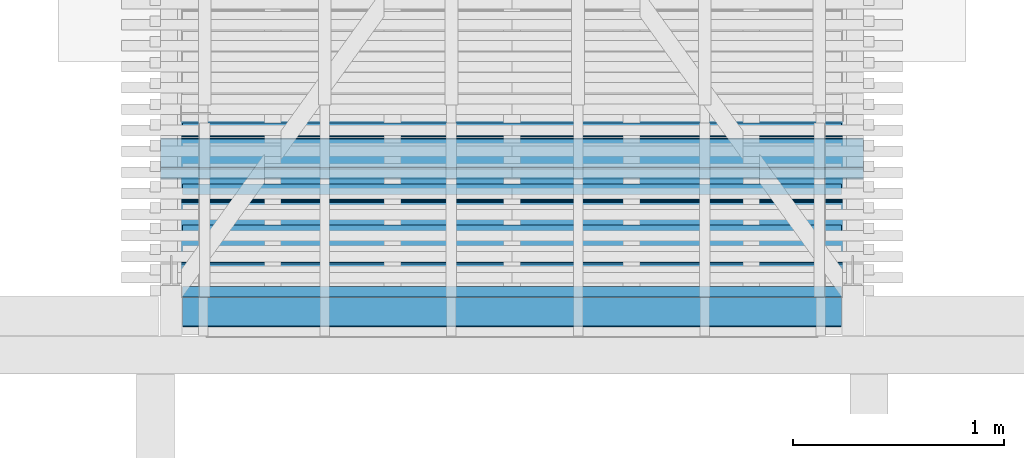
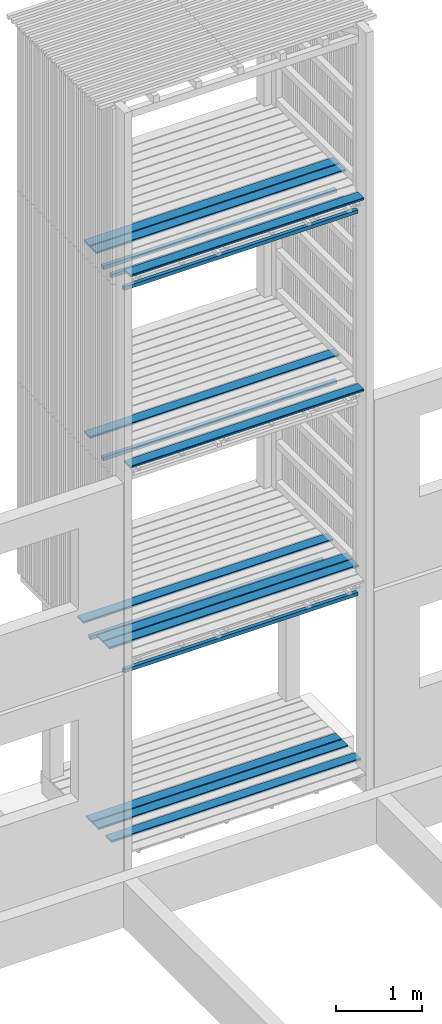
# One storey, part 35 of 182: 17 beams.
"""IFC2X3 building model written with IfcOpenShell, lengths in metres."""

from ifc_helpers import new_model, si_unit, frame, origin, place, context, project, spatial, faceted_brep, element, save


model = new_model("IFC2X3")

# Units and contexts
model_context = context("Model", 3, precision=1e-06, world=origin())
ifc_project = project(units=[si_unit("LENGTHUNIT", "METRE"), si_unit("PLANEANGLEUNIT", "RADIAN")], contexts=[model_context])

# Site, building, storey
site = spatial("IfcSite", under=ifc_project, CompositionType="ELEMENT")
building = spatial("IfcBuilding", under=site, CompositionType="ELEMENT")
storey = spatial("IfcBuildingStorey", under=building, Name="vs", CompositionType="ELEMENT", Elevation=-0.85)

# Beams
placement = place(None, origin())
beam_1_placement = place(placement, frame((16.654197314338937, 10.884577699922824, 2.733499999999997), z_axis=(0.0, 0.0, 1.0), x_axis=(-1.0, -2e-15, 0.0)))
element("IfcBeam", 1, at=beam_1_placement, inside=storey, Name="Caillebotis", context=model_context, shape_type="Brep", body=[
    faceted_brep([(3.329999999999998, -0.072500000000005, -0.0135), (3.329999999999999, 0.072499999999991, -0.0135), (3.329999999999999, 0.072499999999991, 0.0085), (3.329999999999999, 0.067499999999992, 0.0135), (3.329999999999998, -0.067500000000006, 0.0135), (3.329999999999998, -0.072500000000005, 0.008500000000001), (0.0, -0.072500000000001, 0.008500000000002), (0.0, -0.067499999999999, 0.0135), (0.0, 0.067499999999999, 0.0135), (0.0, 0.072500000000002, 0.0085), (0.0, 0.072500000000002, -0.0135), (0.0, -0.072500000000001, -0.0135), (3.329999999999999, 0.072499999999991, 0.0085), (3.329999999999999, 0.072499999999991, -0.0135), (0.0, 0.072500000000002, -0.0135), (0.0, 0.072500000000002, 0.0085), (3.329999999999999, 0.067499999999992, 0.0135), (3.329999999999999, 0.072499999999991, 0.0085), (0.0, 0.072500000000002, 0.0085), (0.0, 0.067499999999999, 0.0135), (3.329999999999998, -0.067500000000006, 0.0135), (3.329999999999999, 0.067499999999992, 0.0135), (0.0, 0.067499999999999, 0.0135), (0.0, -0.067499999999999, 0.0135), (3.329999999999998, -0.072500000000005, 0.008500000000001), (3.329999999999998, -0.067500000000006, 0.0135), (0.0, -0.067499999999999, 0.0135), (0.0, -0.072500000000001, 0.008500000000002), (3.329999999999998, -0.072500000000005, -0.0135), (3.329999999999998, -0.072500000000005, 0.008500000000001), (0.0, -0.072500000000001, 0.008500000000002), (0.0, -0.072500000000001, -0.0135), (0.0, 0.072500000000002, -0.0135), (3.329999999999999, 0.072499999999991, -0.0135), (3.329999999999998, -0.072500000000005, -0.0135), (0.0, -0.072500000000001, -0.0135)], [[[0, 1, 2, 3, 4, 5]], [[6, 7, 8, 9, 10, 11]], [[12, 13, 14, 15]], [[16, 17, 18, 19]], [[20, 21, 22, 23]], [[24, 25, 26, 27]], [[28, 29, 30, 31]], [[32, 33, 34, 35]]]),
])
beam_2_placement = place(placement, frame((16.654197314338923, 11.284577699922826, 0.033500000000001), z_axis=(0.0, 0.0, 1.0), x_axis=(-1.0, -1e-15, 0.0)))
element("IfcBeam", 2, at=beam_2_placement, inside=storey, Name="Caillebotis", context=model_context, shape_type="Brep", body=[
    faceted_brep([(3.329999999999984, -0.067499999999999, 0.0135), (3.329999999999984, -0.072500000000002, 0.008500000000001), (3.329999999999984, -0.072500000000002, -0.013500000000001), (3.329999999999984, 0.072500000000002, -0.013500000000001), (3.329999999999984, 0.072500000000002, 0.0085), (3.329999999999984, 0.067499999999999, 0.0135), (0.0, 0.067500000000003, 0.0135), (0.0, 0.072500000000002, 0.0085), (0.0, 0.072500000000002, -0.013500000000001), (0.0, -0.072499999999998, -0.013500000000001), (0.0, -0.072499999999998, 0.008500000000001), (0.0, -0.067499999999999, 0.0135), (3.329999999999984, -0.072500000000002, -0.013500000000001), (3.329999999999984, -0.072500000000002, 0.008500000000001), (0.0, -0.072499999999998, 0.008500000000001), (0.0, -0.072499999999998, -0.013500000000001), (3.329999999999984, 0.072500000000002, -0.013500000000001), (3.329999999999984, -0.072500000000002, -0.013500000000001), (0.0, -0.072499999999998, -0.013500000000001), (0.0, 0.072500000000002, -0.013500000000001), (3.329999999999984, 0.072500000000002, 0.0085), (3.329999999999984, 0.072500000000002, -0.013500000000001), (0.0, 0.072500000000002, -0.013500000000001), (0.0, 0.072500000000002, 0.0085), (3.329999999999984, 0.067499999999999, 0.0135), (3.329999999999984, 0.072500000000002, 0.0085), (0.0, 0.072500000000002, 0.0085), (0.0, 0.067500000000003, 0.0135), (3.329999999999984, -0.067499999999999, 0.0135), (3.329999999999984, 0.067499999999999, 0.0135), (0.0, 0.067500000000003, 0.0135), (0.0, -0.067499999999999, 0.0135), (0.0, -0.072499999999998, 0.008500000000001), (3.329999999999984, -0.072500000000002, 0.008500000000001), (3.329999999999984, -0.067499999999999, 0.0135), (0.0, -0.067499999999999, 0.0135)], [[[0, 1, 2, 3, 4, 5]], [[6, 7, 8, 9, 10, 11]], [[12, 13, 14, 15]], [[16, 17, 18, 19]], [[20, 21, 22, 23]], [[24, 25, 26, 27]], [[28, 29, 30, 31]], [[32, 33, 34, 35]]]),
])
beam_3_placement = place(placement, frame((16.549197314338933, 10.970702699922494, 7.867999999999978), z_axis=(0.0, 0.0, 1.0), x_axis=(-1.0, 0.0, 0.0)))
element("IfcBeam", 3, at=beam_3_placement, inside=storey, Name="Bardage", context=model_context, shape_type="Brep", body=[
    faceted_brep([(3.120000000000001, 0.024999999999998, -0.025000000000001), (3.120000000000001, -0.025000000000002, -0.025000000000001), (-3e-15, -0.025000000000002, -0.025000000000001), (-3e-15, 0.024999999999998, -0.025000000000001), (-3e-15, -0.025000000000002, -0.025000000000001), (3.120000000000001, -0.025000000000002, -0.025000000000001), (3.120000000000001, -0.025000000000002, 0.024999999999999), (-3e-15, -0.025000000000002, 0.024999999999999), (3.120000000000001, -0.025000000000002, -0.025000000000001), (3.120000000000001, 0.024999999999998, -0.025000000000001), (3.120000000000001, 0.024999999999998, 0.024999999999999), (3.120000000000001, -0.025000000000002, 0.024999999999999), (3.120000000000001, 0.024999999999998, 0.024999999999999), (3.120000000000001, 0.024999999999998, -0.025000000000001), (-3e-15, 0.024999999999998, -0.025000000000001), (-3e-15, 0.024999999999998, 0.024999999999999), (-3e-15, -0.025000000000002, 0.024999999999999), (3.120000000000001, -0.025000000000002, 0.024999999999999), (3.120000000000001, 0.024999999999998, 0.024999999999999), (-3e-15, 0.024999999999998, 0.024999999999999), (-3e-15, -0.025000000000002, -0.025000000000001), (-3e-15, -0.025000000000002, 0.024999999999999), (-3e-15, 0.024999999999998, 0.024999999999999), (-3e-15, 0.024999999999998, -0.025000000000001)], [[[0, 1, 2, 3]], [[4, 5, 6, 7]], [[8, 9, 10, 11]], [[12, 13, 14, 15]], [[16, 17, 18, 19]], [[20, 21, 22, 23]]]),
])
beam_4_placement = place(placement, frame((16.654197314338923, 11.484577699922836, 2.733499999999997), z_axis=(0.0, 0.0, 1.0), x_axis=(-1.0, -8e-15, 0.0)))
element("IfcBeam", 4, at=beam_4_placement, inside=storey, Name="Caillebotis", context=model_context, shape_type="Brep", body=[
    faceted_brep([(3.329999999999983, -0.072500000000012, -0.0135), (3.329999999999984, 0.072499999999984, -0.0135), (3.329999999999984, 0.072499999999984, 0.0085), (3.329999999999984, 0.067499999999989, 0.0135), (3.329999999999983, -0.067500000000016, 0.0135), (3.329999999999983, -0.072500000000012, 0.008500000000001), (-1.5e-14, -0.072499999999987, 0.008500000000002), (-1.5e-14, -0.067499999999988, 0.0135), (-1.4e-14, 0.067500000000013, 0.0135), (-1.4e-14, 0.072500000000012, 0.0085), (-1.4e-14, 0.072500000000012, -0.0135), (-1.5e-14, -0.072499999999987, -0.0135), (3.329999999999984, 0.072499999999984, 0.0085), (3.329999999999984, 0.072499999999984, -0.0135), (-1.4e-14, 0.072500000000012, -0.0135), (-1.4e-14, 0.072500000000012, 0.0085), (3.329999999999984, 0.067499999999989, 0.0135), (3.329999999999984, 0.072499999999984, 0.0085), (-1.4e-14, 0.072500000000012, 0.0085), (-1.4e-14, 0.067500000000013, 0.0135), (3.329999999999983, -0.067500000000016, 0.0135), (3.329999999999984, 0.067499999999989, 0.0135), (-1.4e-14, 0.067500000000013, 0.0135), (-1.5e-14, -0.067499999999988, 0.0135), (3.329999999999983, -0.072500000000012, 0.008500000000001), (3.329999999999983, -0.067500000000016, 0.0135), (-1.5e-14, -0.067499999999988, 0.0135), (-1.5e-14, -0.072499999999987, 0.008500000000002), (3.329999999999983, -0.072500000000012, -0.0135), (3.329999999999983, -0.072500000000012, 0.008500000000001), (-1.5e-14, -0.072499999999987, 0.008500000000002), (-1.5e-14, -0.072499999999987, -0.0135), (-1.4e-14, 0.072500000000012, -0.0135), (3.329999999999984, 0.072499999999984, -0.0135), (3.329999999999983, -0.072500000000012, -0.0135), (-1.5e-14, -0.072499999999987, -0.0135)], [[[0, 1, 2, 3, 4, 5]], [[6, 7, 8, 9, 10, 11]], [[12, 13, 14, 15]], [[16, 17, 18, 19]], [[20, 21, 22, 23]], [[24, 25, 26, 27]], [[28, 29, 30, 31]], [[32, 33, 34, 35]]]),
])
beam_5_placement = place(placement, frame((16.654197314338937, 11.334577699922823, 8.13349999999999), z_axis=(0.0, 0.0, 1.0), x_axis=(-1.0, 0.0, 0.0)))
element("IfcBeam", 5, at=beam_5_placement, inside=storey, Name="Caillebotis", context=model_context, shape_type="Brep", body=[
    faceted_brep([(3.329999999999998, -0.072499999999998, -0.013500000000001), (3.329999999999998, 0.072500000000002, -0.013500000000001), (3.329999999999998, 0.072500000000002, 0.008499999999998), (3.329999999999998, 0.067500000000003, 0.013499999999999), (3.329999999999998, -0.067500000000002, 0.013499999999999), (3.329999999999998, -0.072499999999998, 0.0085), (0.0, -0.072499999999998, 0.0085), (0.0, -0.067500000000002, 0.013499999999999), (0.0, 0.067500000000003, 0.013499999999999), (0.0, 0.072499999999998, 0.008499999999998), (0.0, 0.072499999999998, -0.013500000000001), (0.0, -0.072499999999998, -0.013500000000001), (3.329999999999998, 0.072500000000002, 0.008499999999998), (3.329999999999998, 0.072500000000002, -0.013500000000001), (0.0, 0.072499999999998, -0.013500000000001), (0.0, 0.072499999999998, 0.008499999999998), (3.329999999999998, 0.067500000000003, 0.013499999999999), (3.329999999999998, 0.072500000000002, 0.008499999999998), (0.0, 0.072499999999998, 0.008499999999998), (0.0, 0.067500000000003, 0.013499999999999), (3.329999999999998, -0.067500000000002, 0.013499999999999), (3.329999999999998, 0.067500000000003, 0.013499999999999), (0.0, 0.067500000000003, 0.013499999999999), (0.0, -0.067500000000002, 0.013499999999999), (3.329999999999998, -0.072499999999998, 0.0085), (3.329999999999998, -0.067500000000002, 0.013499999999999), (0.0, -0.067500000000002, 0.013499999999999), (0.0, -0.072499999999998, 0.0085), (3.329999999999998, -0.072499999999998, -0.013500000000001), (3.329999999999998, -0.072499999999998, 0.0085), (0.0, -0.072499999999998, 0.0085), (0.0, -0.072499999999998, -0.013500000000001), (0.0, 0.072499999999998, -0.013500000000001), (3.329999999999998, 0.072500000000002, -0.013500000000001), (3.329999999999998, -0.072499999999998, -0.013500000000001), (0.0, -0.072499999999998, -0.013500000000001)], [[[0, 1, 2, 3, 4, 5]], [[6, 7, 8, 9, 10, 11]], [[12, 13, 14, 15]], [[16, 17, 18, 19]], [[20, 21, 22, 23]], [[24, 25, 26, 27]], [[28, 29, 30, 31]], [[32, 33, 34, 35]]]),
])
beam_6_placement = place(placement, frame((16.549197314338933, 10.584577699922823, 8.13349999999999), z_axis=(0.0, 0.0, 1.0), x_axis=(-1.0, 0.0, 0.0)))
element("IfcBeam", 6, at=beam_6_placement, inside=storey, Name="Caillebotis", context=model_context, shape_type="Brep", body=[
    faceted_brep([(-3e-15, -0.072500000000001, 0.008500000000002), (-3e-15, -0.067500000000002, 0.013499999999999), (-3e-15, 0.067499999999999, 0.013499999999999), (-3e-15, 0.072499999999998, 0.0085), (-3e-15, 0.072499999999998, -0.013500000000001), (-3e-15, -0.072500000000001, -0.013500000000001), (-3e-15, 0.072499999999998, -0.013500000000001), (-3e-15, 0.072499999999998, 0.0085), (3.120000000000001, 0.072499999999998, 0.008499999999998), (3.120000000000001, 0.072499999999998, -0.013500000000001), (-3e-15, -0.072500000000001, -0.013500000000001), (-3e-15, 0.072499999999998, -0.013500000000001), (3.120000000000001, 0.072499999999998, -0.013500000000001), (3.120000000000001, -0.072500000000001, -0.013500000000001), (-3e-15, -0.072500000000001, 0.008500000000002), (-3e-15, -0.072500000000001, -0.013500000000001), (3.120000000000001, -0.072500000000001, -0.013500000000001), (3.120000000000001, -0.072500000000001, 0.0085), (-3e-15, -0.067500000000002, 0.013499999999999), (-3e-15, -0.072500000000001, 0.008500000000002), (3.120000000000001, -0.072500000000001, 0.0085), (3.120000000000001, -0.067500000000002, 0.013499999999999), (-3e-15, 0.067499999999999, 0.013499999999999), (-3e-15, -0.067500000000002, 0.013499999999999), (3.120000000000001, -0.067500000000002, 0.013499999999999), (3.120000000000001, 0.067499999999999, 0.013499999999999), (-3e-15, 0.072499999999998, 0.0085), (-3e-15, 0.067499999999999, 0.013499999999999), (3.120000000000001, 0.067499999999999, 0.013499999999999), (3.120000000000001, 0.072499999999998, 0.008499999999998), (3.120000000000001, -0.072500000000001, -0.013500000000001), (3.120000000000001, 0.072499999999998, -0.013500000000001), (3.120000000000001, 0.072499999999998, 0.008499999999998), (3.120000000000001, 0.067499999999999, 0.013499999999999), (3.120000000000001, -0.067500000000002, 0.013499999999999), (3.120000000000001, -0.072500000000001, 0.0085)], [[[0, 1, 2, 3, 4, 5]], [[6, 7, 8, 9]], [[10, 11, 12, 13]], [[14, 15, 16, 17]], [[18, 19, 20, 21]], [[22, 23, 24, 25]], [[26, 27, 28, 29]], [[30, 31, 32, 33, 34, 35]]]),
])
beam_7_placement = place(placement, frame((16.549197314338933, 11.164452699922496, 5.167999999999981), z_axis=(0.0, 0.0, 1.0), x_axis=(-1.0, 0.0, 0.0)))
element("IfcBeam", 7, at=beam_7_placement, inside=storey, Name="Bardage", context=model_context, shape_type="Brep", body=[
    faceted_brep([(3.120000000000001, 0.025000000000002, -0.025), (3.120000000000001, -0.024999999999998, -0.025), (-3e-15, -0.024999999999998, -0.025), (-3e-15, 0.024999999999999, -0.025), (-3e-15, -0.024999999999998, -0.025), (3.120000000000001, -0.024999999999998, -0.025), (3.120000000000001, -0.024999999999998, 0.025000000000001), (-3e-15, -0.024999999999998, 0.025000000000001), (3.120000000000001, -0.024999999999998, -0.025), (3.120000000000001, 0.025000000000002, -0.025), (3.120000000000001, 0.025000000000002, 0.025000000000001), (3.120000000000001, -0.024999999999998, 0.025000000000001), (3.120000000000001, 0.025000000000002, 0.025000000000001), (3.120000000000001, 0.025000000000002, -0.025), (-3e-15, 0.024999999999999, -0.025), (-3e-15, 0.024999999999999, 0.025000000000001), (-3e-15, -0.024999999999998, 0.025000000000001), (3.120000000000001, -0.024999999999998, 0.025000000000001), (3.120000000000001, 0.025000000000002, 0.025000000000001), (-3e-15, 0.024999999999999, 0.025000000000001), (-3e-15, -0.024999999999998, -0.025), (-3e-15, -0.024999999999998, 0.025000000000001), (-3e-15, 0.024999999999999, 0.025000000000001), (-3e-15, 0.024999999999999, -0.025)], [[[0, 1, 2, 3]], [[4, 5, 6, 7]], [[8, 9, 10, 11]], [[12, 13, 14, 15]], [[16, 17, 18, 19]], [[20, 21, 22, 23]]]),
])
beam_8_placement = place(placement, frame((16.549197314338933, 10.584577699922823, 5.433499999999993), z_axis=(0.0, 0.0, 1.0), x_axis=(-1.0, 0.0, 0.0)))
element("IfcBeam", 8, at=beam_8_placement, inside=storey, Name="Caillebotis", context=model_context, shape_type="Brep", body=[
    faceted_brep([(-3e-15, -0.072500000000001, 0.008500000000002), (-3e-15, -0.067500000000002, 0.0135), (-3e-15, 0.067499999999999, 0.0135), (-3e-15, 0.072499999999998, 0.008500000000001), (-3e-15, 0.072499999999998, -0.0135), (-3e-15, -0.072500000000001, -0.0135), (-3e-15, 0.072499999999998, -0.0135), (-3e-15, 0.072499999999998, 0.008500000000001), (3.120000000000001, 0.072499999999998, 0.0085), (3.120000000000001, 0.072499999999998, -0.0135), (-3e-15, -0.072500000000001, -0.0135), (-3e-15, 0.072499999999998, -0.0135), (3.120000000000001, 0.072499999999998, -0.0135), (3.120000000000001, -0.072500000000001, -0.0135), (-3e-15, -0.072500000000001, 0.008500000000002), (-3e-15, -0.072500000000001, -0.0135), (3.120000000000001, -0.072500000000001, -0.0135), (3.120000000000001, -0.072500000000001, 0.008500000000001), (-3e-15, -0.067500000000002, 0.0135), (-3e-15, -0.072500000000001, 0.008500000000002), (3.120000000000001, -0.072500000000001, 0.008500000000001), (3.120000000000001, -0.067500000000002, 0.0135), (-3e-15, 0.067499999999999, 0.0135), (-3e-15, -0.067500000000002, 0.0135), (3.120000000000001, -0.067500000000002, 0.0135), (3.120000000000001, 0.067499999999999, 0.0135), (-3e-15, 0.072499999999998, 0.008500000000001), (-3e-15, 0.067499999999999, 0.0135), (3.120000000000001, 0.067499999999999, 0.0135), (3.120000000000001, 0.072499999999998, 0.0085), (3.120000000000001, -0.072500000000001, -0.0135), (3.120000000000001, 0.072499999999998, -0.0135), (3.120000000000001, 0.072499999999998, 0.0085), (3.120000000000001, 0.067499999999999, 0.0135), (3.120000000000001, -0.067500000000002, 0.0135), (3.120000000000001, -0.072500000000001, 0.008500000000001)], [[[0, 1, 2, 3, 4, 5]], [[6, 7, 8, 9]], [[10, 11, 12, 13]], [[14, 15, 16, 17]], [[18, 19, 20, 21]], [[22, 23, 24, 25]], [[26, 27, 28, 29]], [[30, 31, 32, 33, 34, 35]]]),
])
beam_9_placement = place(placement, frame((16.549197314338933, 11.164452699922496, 7.867999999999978), z_axis=(0.0, 0.0, 1.0), x_axis=(-1.0, 0.0, 0.0)))
element("IfcBeam", 9, at=beam_9_placement, inside=storey, Name="Bardage", context=model_context, shape_type="Brep", body=[
    faceted_brep([(3.120000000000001, 0.025000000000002, -0.025000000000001), (3.120000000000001, -0.024999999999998, -0.025000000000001), (-3e-15, -0.024999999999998, -0.025000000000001), (-3e-15, 0.024999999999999, -0.025000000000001), (-3e-15, -0.024999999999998, -0.025000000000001), (3.120000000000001, -0.024999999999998, -0.025000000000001), (3.120000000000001, -0.024999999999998, 0.024999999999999), (-3e-15, -0.024999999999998, 0.024999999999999), (3.120000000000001, -0.024999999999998, -0.025000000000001), (3.120000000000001, 0.025000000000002, -0.025000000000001), (3.120000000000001, 0.025000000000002, 0.024999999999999), (3.120000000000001, -0.024999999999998, 0.024999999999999), (3.120000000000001, 0.025000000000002, 0.024999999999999), (3.120000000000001, 0.025000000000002, -0.025000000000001), (-3e-15, 0.024999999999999, -0.025000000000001), (-3e-15, 0.024999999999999, 0.024999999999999), (-3e-15, -0.024999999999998, 0.024999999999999), (3.120000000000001, -0.024999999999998, 0.024999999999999), (3.120000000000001, 0.025000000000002, 0.024999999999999), (-3e-15, 0.024999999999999, 0.024999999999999), (-3e-15, -0.024999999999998, -0.025000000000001), (-3e-15, -0.024999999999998, 0.024999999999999), (-3e-15, 0.024999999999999, 0.024999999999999), (-3e-15, 0.024999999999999, -0.025000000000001)], [[[0, 1, 2, 3]], [[4, 5, 6, 7]], [[8, 9, 10, 11]], [[12, 13, 14, 15]], [[16, 17, 18, 19]], [[20, 21, 22, 23]]]),
])
beam_10_placement = place(placement, frame((16.654197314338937, 11.184577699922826, 8.13349999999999), z_axis=(0.0, 0.0, 1.0), x_axis=(-1.0, -2e-15, 0.0)))
element("IfcBeam", 10, at=beam_10_placement, inside=storey, Name="Caillebotis", context=model_context, shape_type="Brep", body=[
    faceted_brep([(3.329999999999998, -0.072500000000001, -0.013500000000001), (3.329999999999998, 0.072500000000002, -0.013500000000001), (3.329999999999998, 0.072499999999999, 0.008499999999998), (3.329999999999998, 0.0675, 0.013499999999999), (3.329999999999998, -0.067500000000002, 0.013499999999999), (3.329999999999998, -0.072500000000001, 0.0085), (0.0, -0.072499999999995, 0.0085), (0.0, -0.067499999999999, 0.013499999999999), (0.0, 0.067500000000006, 0.013499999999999), (0.0, 0.072500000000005, 0.008499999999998), (0.0, 0.072500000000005, -0.013500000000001), (0.0, -0.072499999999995, -0.013500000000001), (3.329999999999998, 0.072499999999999, 0.008499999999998), (3.329999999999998, 0.072500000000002, -0.013500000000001), (0.0, 0.072500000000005, -0.013500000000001), (0.0, 0.072500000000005, 0.008499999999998), (3.329999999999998, 0.0675, 0.013499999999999), (3.329999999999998, 0.072499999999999, 0.008499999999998), (0.0, 0.072500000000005, 0.008499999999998), (0.0, 0.067500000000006, 0.013499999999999), (3.329999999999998, -0.067500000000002, 0.013499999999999), (3.329999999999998, 0.0675, 0.013499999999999), (0.0, 0.067500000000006, 0.013499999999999), (0.0, -0.067499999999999, 0.013499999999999), (3.329999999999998, -0.072500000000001, 0.0085), (3.329999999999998, -0.067500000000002, 0.013499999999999), (0.0, -0.067499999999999, 0.013499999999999), (0.0, -0.072499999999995, 0.0085), (3.329999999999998, -0.072500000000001, -0.013500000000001), (3.329999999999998, -0.072500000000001, 0.0085), (0.0, -0.072499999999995, 0.0085), (0.0, -0.072499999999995, -0.013500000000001), (0.0, 0.072500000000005, -0.013500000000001), (3.329999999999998, 0.072500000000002, -0.013500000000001), (3.329999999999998, -0.072500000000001, -0.013500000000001), (0.0, -0.072499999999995, -0.013500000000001)], [[[0, 1, 2, 3, 4, 5]], [[6, 7, 8, 9, 10, 11]], [[12, 13, 14, 15]], [[16, 17, 18, 19]], [[20, 21, 22, 23]], [[24, 25, 26, 27]], [[28, 29, 30, 31]], [[32, 33, 34, 35]]]),
])
beam_11_placement = place(placement, frame((16.654197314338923, 11.134577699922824, 0.033500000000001), z_axis=(0.0, 0.0, 1.0), x_axis=(-1.0, -1e-15, 0.0)))
element("IfcBeam", 11, at=beam_11_placement, inside=storey, Name="Caillebotis", context=model_context, shape_type="Brep", body=[
    faceted_brep([(3.329999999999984, -0.067500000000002, 0.0135), (3.329999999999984, -0.072500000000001, 0.008500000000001), (3.329999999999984, -0.072500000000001, -0.013500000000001), (3.329999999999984, 0.072499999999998, -0.013500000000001), (3.329999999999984, 0.072499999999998, 0.0085), (3.329999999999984, 0.067499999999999, 0.0135), (0.0, 0.067499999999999, 0.0135), (0.0, 0.072500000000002, 0.0085), (0.0, 0.072500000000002, -0.013500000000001), (0.0, -0.072500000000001, -0.013500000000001), (0.0, -0.072500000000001, 0.008500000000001), (0.0, -0.067499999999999, 0.0135), (3.329999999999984, -0.072500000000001, -0.013500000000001), (3.329999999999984, -0.072500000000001, 0.008500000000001), (0.0, -0.072500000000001, 0.008500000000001), (0.0, -0.072500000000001, -0.013500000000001), (3.329999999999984, 0.072499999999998, -0.013500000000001), (3.329999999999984, -0.072500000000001, -0.013500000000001), (0.0, -0.072500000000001, -0.013500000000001), (0.0, 0.072500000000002, -0.013500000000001), (3.329999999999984, 0.072499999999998, 0.0085), (3.329999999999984, 0.072499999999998, -0.013500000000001), (0.0, 0.072500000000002, -0.013500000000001), (0.0, 0.072500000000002, 0.0085), (3.329999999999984, 0.067499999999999, 0.0135), (3.329999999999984, 0.072499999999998, 0.0085), (0.0, 0.072500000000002, 0.0085), (0.0, 0.067499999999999, 0.0135), (3.329999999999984, -0.067500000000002, 0.0135), (3.329999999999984, 0.067499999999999, 0.0135), (0.0, 0.067499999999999, 0.0135), (0.0, -0.067499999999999, 0.0135), (0.0, -0.072500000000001, 0.008500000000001), (3.329999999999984, -0.072500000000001, 0.008500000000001), (3.329999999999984, -0.067500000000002, 0.0135), (0.0, -0.067499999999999, 0.0135)], [[[0, 1, 2, 3, 4, 5]], [[6, 7, 8, 9, 10, 11]], [[12, 13, 14, 15]], [[16, 17, 18, 19]], [[20, 21, 22, 23]], [[24, 25, 26, 27]], [[28, 29, 30, 31]], [[32, 33, 34, 35]]]),
])
beam_12_placement = place(placement, frame((16.654197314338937, 11.334577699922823, 5.433499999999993), z_axis=(0.0, 0.0, 1.0), x_axis=(-1.0, 0.0, 0.0)))
element("IfcBeam", 12, at=beam_12_placement, inside=storey, Name="Caillebotis", context=model_context, shape_type="Brep", body=[
    faceted_brep([(3.329999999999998, -0.072499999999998, -0.0135), (3.329999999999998, 0.072500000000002, -0.0135), (3.329999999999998, 0.072500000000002, 0.0085), (3.329999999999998, 0.067500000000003, 0.0135), (3.329999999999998, -0.067500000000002, 0.0135), (3.329999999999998, -0.072499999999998, 0.008500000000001), (0.0, -0.072499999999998, 0.008500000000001), (0.0, -0.067500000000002, 0.0135), (0.0, 0.067500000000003, 0.0135), (0.0, 0.072499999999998, 0.0085), (0.0, 0.072499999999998, -0.0135), (0.0, -0.072499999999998, -0.0135), (3.329999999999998, 0.072500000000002, 0.0085), (3.329999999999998, 0.072500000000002, -0.0135), (0.0, 0.072499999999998, -0.0135), (0.0, 0.072499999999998, 0.0085), (3.329999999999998, 0.067500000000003, 0.0135), (3.329999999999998, 0.072500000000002, 0.0085), (0.0, 0.072499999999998, 0.0085), (0.0, 0.067500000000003, 0.0135), (3.329999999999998, -0.067500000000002, 0.0135), (3.329999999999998, 0.067500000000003, 0.0135), (0.0, 0.067500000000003, 0.0135), (0.0, -0.067500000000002, 0.0135), (3.329999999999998, -0.072499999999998, 0.008500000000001), (3.329999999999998, -0.067500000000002, 0.0135), (0.0, -0.067500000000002, 0.0135), (0.0, -0.072499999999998, 0.008500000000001), (3.329999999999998, -0.072499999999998, -0.0135), (3.329999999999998, -0.072499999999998, 0.008500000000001), (0.0, -0.072499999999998, 0.008500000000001), (0.0, -0.072499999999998, -0.0135), (0.0, 0.072499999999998, -0.0135), (3.329999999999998, 0.072500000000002, -0.0135), (3.329999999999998, -0.072499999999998, -0.0135), (0.0, -0.072499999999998, -0.0135)], [[[0, 1, 2, 3, 4, 5]], [[6, 7, 8, 9, 10, 11]], [[12, 13, 14, 15]], [[16, 17, 18, 19]], [[20, 21, 22, 23]], [[24, 25, 26, 27]], [[28, 29, 30, 31]], [[32, 33, 34, 35]]]),
])
beam_13_placement = place(placement, frame((16.549197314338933, 10.680077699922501, 2.467999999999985), z_axis=(0.0, 0.0, 1.0), x_axis=(-1.0, 0.0, 0.0)))
element("IfcBeam", 13, at=beam_13_placement, inside=storey, Name="Bardage", context=model_context, shape_type="Brep", body=[
    faceted_brep([(3.120000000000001, -0.025000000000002, 0.025), (3.120000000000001, -0.025000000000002, -0.025), (3.120000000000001, 0.024999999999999, -0.025), (3.120000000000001, 0.024999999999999, 0.025), (-3e-15, 0.024999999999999, 0.025), (-3e-15, 0.024999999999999, -0.025), (-3e-15, -0.025000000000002, -0.025), (-3e-15, -0.025000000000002, 0.025), (3.120000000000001, -0.025000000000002, -0.025), (3.120000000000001, -0.025000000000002, 0.025), (-3e-15, -0.025000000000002, 0.025), (-3e-15, -0.025000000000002, -0.025), (3.120000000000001, 0.024999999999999, -0.025), (3.120000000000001, -0.025000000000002, -0.025), (-3e-15, -0.025000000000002, -0.025), (-3e-15, 0.024999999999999, -0.025), (3.120000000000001, 0.024999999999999, 0.025), (3.120000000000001, 0.024999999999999, -0.025), (-3e-15, 0.024999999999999, -0.025), (-3e-15, 0.024999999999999, 0.025), (3.120000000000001, -0.025000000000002, 0.025), (3.120000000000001, 0.024999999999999, 0.025), (-3e-15, 0.024999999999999, 0.025), (-3e-15, -0.025000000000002, 0.025)], [[[0, 1, 2, 3]], [[4, 5, 6, 7]], [[8, 9, 10, 11]], [[12, 13, 14, 15]], [[16, 17, 18, 19]], [[20, 21, 22, 23]]]),
])
beam_14_placement = place(placement, frame((16.654197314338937, 11.034577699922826, 2.733499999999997), z_axis=(0.0, 0.0, 1.0), x_axis=(-1.0, -1e-15, 0.0)))
element("IfcBeam", 14, at=beam_14_placement, inside=storey, Name="Caillebotis", context=model_context, shape_type="Brep", body=[
    faceted_brep([(3.329999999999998, -0.072500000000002, -0.0135), (3.329999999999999, 0.072500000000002, -0.0135), (3.329999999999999, 0.072500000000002, 0.0085), (3.329999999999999, 0.067499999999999, 0.0135), (3.329999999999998, -0.067499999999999, 0.0135), (3.329999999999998, -0.072500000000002, 0.008500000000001), (0.0, -0.072499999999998, 0.008500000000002), (0.0, -0.067499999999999, 0.0135), (0.0, 0.067500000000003, 0.0135), (0.0, 0.072500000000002, 0.0085), (0.0, 0.072500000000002, -0.0135), (0.0, -0.072499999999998, -0.0135), (3.329999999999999, 0.072500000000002, 0.0085), (3.329999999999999, 0.072500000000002, -0.0135), (0.0, 0.072500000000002, -0.0135), (0.0, 0.072500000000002, 0.0085), (3.329999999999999, 0.067499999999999, 0.0135), (3.329999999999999, 0.072500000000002, 0.0085), (0.0, 0.072500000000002, 0.0085), (0.0, 0.067500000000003, 0.0135), (3.329999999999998, -0.067499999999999, 0.0135), (3.329999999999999, 0.067499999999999, 0.0135), (0.0, 0.067500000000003, 0.0135), (0.0, -0.067499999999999, 0.0135), (3.329999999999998, -0.072500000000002, 0.008500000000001), (3.329999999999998, -0.067499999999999, 0.0135), (0.0, -0.067499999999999, 0.0135), (0.0, -0.072499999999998, 0.008500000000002), (3.329999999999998, -0.072500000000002, -0.0135), (3.329999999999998, -0.072500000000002, 0.008500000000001), (0.0, -0.072499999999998, 0.008500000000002), (0.0, -0.072499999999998, -0.0135), (0.0, 0.072500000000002, -0.0135), (3.329999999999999, 0.072500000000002, -0.0135), (3.329999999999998, -0.072500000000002, -0.0135), (0.0, -0.072499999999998, -0.0135)], [[[0, 1, 2, 3, 4, 5]], [[6, 7, 8, 9, 10, 11]], [[12, 13, 14, 15]], [[16, 17, 18, 19]], [[20, 21, 22, 23]], [[24, 25, 26, 27]], [[28, 29, 30, 31]], [[32, 33, 34, 35]]]),
])
beam_15_placement = place(placement, frame((16.549197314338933, 10.680077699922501, 7.867999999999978), z_axis=(0.0, 0.0, 1.0), x_axis=(-1.0, 0.0, 0.0)))
element("IfcBeam", 15, at=beam_15_placement, inside=storey, Name="Bardage", context=model_context, shape_type="Brep", body=[
    faceted_brep([(3.120000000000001, -0.025000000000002, 0.024999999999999), (3.120000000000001, -0.025000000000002, -0.025000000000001), (3.120000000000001, 0.024999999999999, -0.025000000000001), (3.120000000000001, 0.024999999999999, 0.024999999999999), (-3e-15, 0.024999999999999, 0.024999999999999), (-3e-15, 0.024999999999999, -0.025000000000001), (-3e-15, -0.024999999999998, -0.025000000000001), (-3e-15, -0.024999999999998, 0.024999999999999), (3.120000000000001, -0.025000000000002, -0.025000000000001), (3.120000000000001, -0.025000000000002, 0.024999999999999), (-3e-15, -0.024999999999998, 0.024999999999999), (-3e-15, -0.024999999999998, -0.025000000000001), (3.120000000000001, 0.024999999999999, -0.025000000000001), (3.120000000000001, -0.025000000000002, -0.025000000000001), (-3e-15, -0.024999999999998, -0.025000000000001), (-3e-15, 0.024999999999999, -0.025000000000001), (3.120000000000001, 0.024999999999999, 0.024999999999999), (3.120000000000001, 0.024999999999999, -0.025000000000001), (-3e-15, 0.024999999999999, -0.025000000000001), (-3e-15, 0.024999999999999, 0.024999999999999), (3.120000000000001, -0.025000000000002, 0.024999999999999), (3.120000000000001, 0.024999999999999, 0.024999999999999), (-3e-15, 0.024999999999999, 0.024999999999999), (-3e-15, -0.024999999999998, 0.024999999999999)], [[[0, 1, 2, 3]], [[4, 5, 6, 7]], [[8, 9, 10, 11]], [[12, 13, 14, 15]], [[16, 17, 18, 19]], [[20, 21, 22, 23]]]),
])
beam_16_placement = place(placement, frame((16.549197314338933, 11.455077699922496, 2.467999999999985), z_axis=(0.0, 0.0, 1.0), x_axis=(-1.0, -1e-15, 0.0)))
element("IfcBeam", 16, at=beam_16_placement, inside=storey, Name="Bardage", context=model_context, shape_type="Brep", body=[
    faceted_brep([(3.120000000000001, 0.025000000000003, -0.025), (3.120000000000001, -0.025000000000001, -0.025), (-3e-15, -0.024999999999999, -0.025), (-3e-15, 0.025000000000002, -0.025), (-3e-15, -0.024999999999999, -0.025), (3.120000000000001, -0.025000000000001, -0.025), (3.120000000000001, -0.025000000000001, 0.025), (-3e-15, -0.024999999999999, 0.025), (3.120000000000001, -0.025000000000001, -0.025), (3.120000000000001, 0.025000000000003, -0.025), (3.120000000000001, 0.025000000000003, 0.025), (3.120000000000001, -0.025000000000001, 0.025), (3.120000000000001, 0.025000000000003, 0.025), (3.120000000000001, 0.025000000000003, -0.025), (-3e-15, 0.025000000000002, -0.025), (-3e-15, 0.025000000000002, 0.025), (-3e-15, -0.024999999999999, 0.025), (3.120000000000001, -0.025000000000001, 0.025), (3.120000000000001, 0.025000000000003, 0.025), (-3e-15, 0.025000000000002, 0.025), (-3e-15, -0.024999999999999, -0.025), (-3e-15, -0.024999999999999, 0.025), (-3e-15, 0.025000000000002, 0.025), (-3e-15, 0.025000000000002, -0.025)], [[[0, 1, 2, 3]], [[4, 5, 6, 7]], [[8, 9, 10, 11]], [[12, 13, 14, 15]], [[16, 17, 18, 19]], [[20, 21, 22, 23]]]),
])
beam_17_placement = place(placement, frame((16.654197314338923, 10.834577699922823, 0.033500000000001), z_axis=(0.0, 0.0, 1.0), x_axis=(-1.0, 0.0, 0.0)))
element("IfcBeam", 17, at=beam_17_placement, inside=storey, Name="Caillebotis", context=model_context, shape_type="Brep", body=[
    faceted_brep([(3.329999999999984, -0.067500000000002, 0.0135), (3.329999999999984, -0.072499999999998, 0.008500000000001), (3.329999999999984, -0.072499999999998, -0.013500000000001), (3.329999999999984, 0.072499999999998, -0.013500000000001), (3.329999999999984, 0.072499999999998, 0.0085), (3.329999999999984, 0.067499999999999, 0.0135), (0.0, 0.067499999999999, 0.0135), (0.0, 0.072499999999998, 0.0085), (0.0, 0.072499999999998, -0.013500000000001), (0.0, -0.072500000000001, -0.013500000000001), (0.0, -0.072500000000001, 0.008500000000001), (0.0, -0.067500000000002, 0.0135), (3.329999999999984, -0.072499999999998, -0.013500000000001), (3.329999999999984, -0.072499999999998, 0.008500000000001), (0.0, -0.072500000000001, 0.008500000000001), (0.0, -0.072500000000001, -0.013500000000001), (3.329999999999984, 0.072499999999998, -0.013500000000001), (3.329999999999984, -0.072499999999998, -0.013500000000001), (0.0, -0.072500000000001, -0.013500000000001), (0.0, 0.072499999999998, -0.013500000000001), (3.329999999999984, 0.072499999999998, 0.0085), (3.329999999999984, 0.072499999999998, -0.013500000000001), (0.0, 0.072499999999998, -0.013500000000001), (0.0, 0.072499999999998, 0.0085), (3.329999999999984, 0.067499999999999, 0.0135), (3.329999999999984, 0.072499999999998, 0.0085), (0.0, 0.072499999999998, 0.0085), (0.0, 0.067499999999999, 0.0135), (3.329999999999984, -0.067500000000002, 0.0135), (3.329999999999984, 0.067499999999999, 0.0135), (0.0, 0.067499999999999, 0.0135), (0.0, -0.067500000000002, 0.0135), (0.0, -0.072500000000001, 0.008500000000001), (3.329999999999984, -0.072499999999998, 0.008500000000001), (3.329999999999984, -0.067500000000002, 0.0135), (0.0, -0.067500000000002, 0.0135)], [[[0, 1, 2, 3, 4, 5]], [[6, 7, 8, 9, 10, 11]], [[12, 13, 14, 15]], [[16, 17, 18, 19]], [[20, 21, 22, 23]], [[24, 25, 26, 27]], [[28, 29, 30, 31]], [[32, 33, 34, 35]]]),
])

save(model, "model.ifc")
